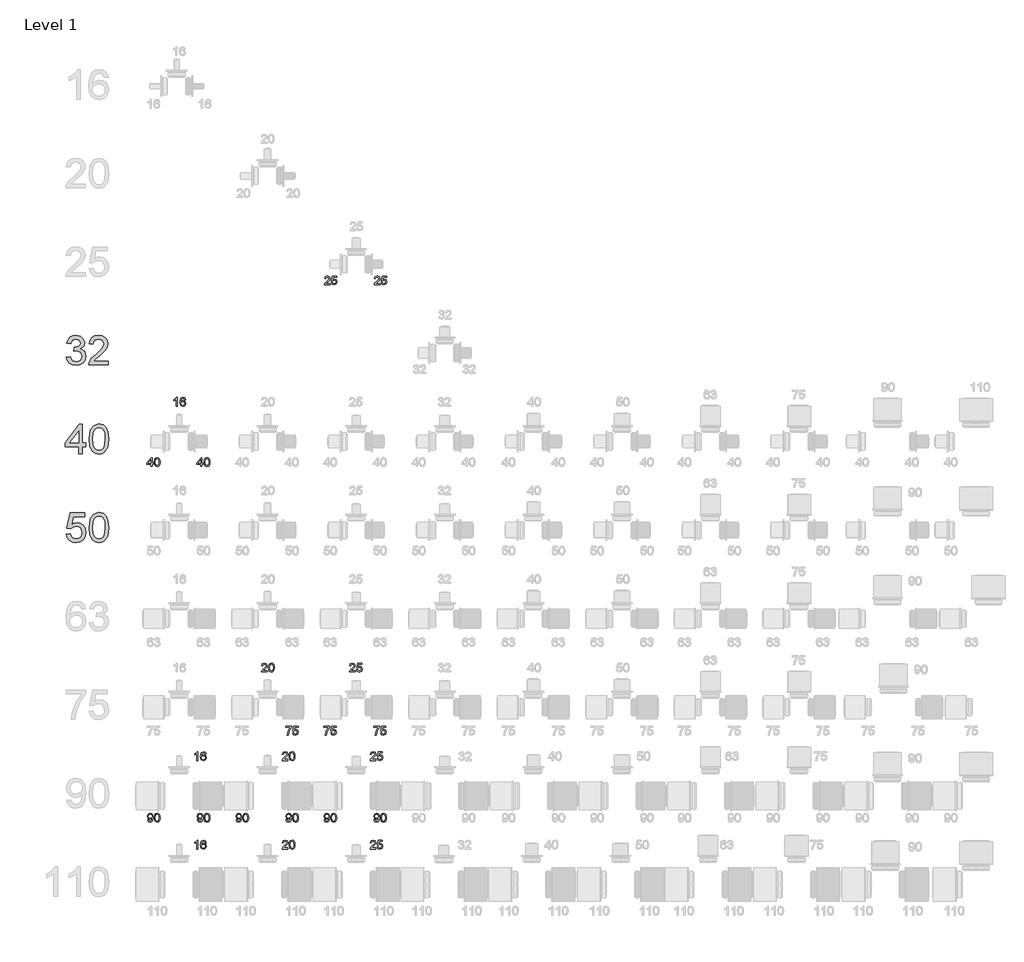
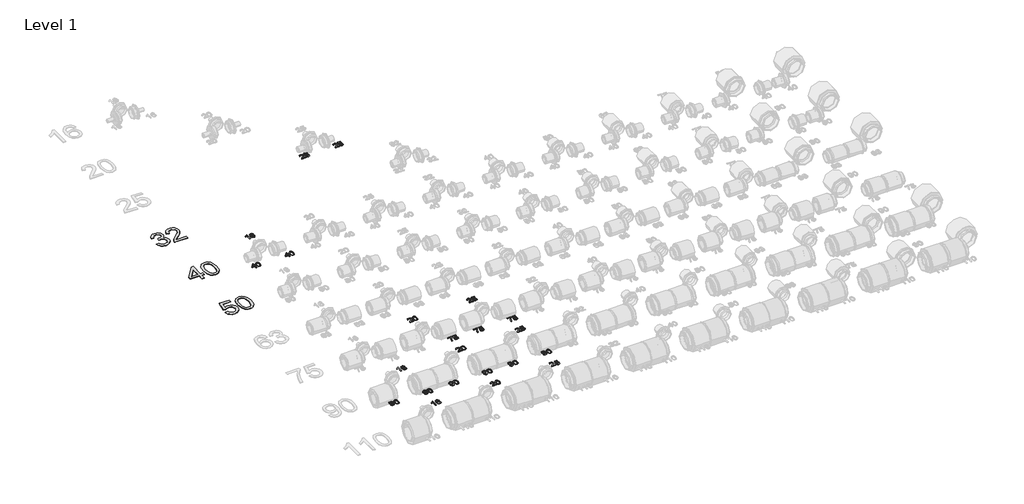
# One storey, part 20 of 58: 25 proxies.
"""IFC4 building model written with IfcOpenShell, lengths in millimetres."""

from ifc_helpers import new_model, si_unit, frame, origin, place, context, project, spatial, polyline, outline, extrude, element, save

model = new_model("IFC4")

# Units and contexts
model_context = context("Model", 3, world=origin())
ifc_project = project(units=[si_unit("LENGTHUNIT", "METRE", prefix="MILLI")], contexts=[model_context])

# Site, building, storey
site = spatial("IfcSite", under=ifc_project)
building = spatial("IfcBuilding", under=site)
storey = spatial("IfcBuildingStorey", under=building, Name="Level 1", Elevation=27.3876384)

# Proxies
placement = place(None, origin())
element("IfcBuildingElementProxy", 1, Name="100mm Arial", ObjectType="100mm Arial", at=placement, inside=storey, context=model_context, shape_type="SweptSolid", body=[
    extrude(outline(polyline([(12884.4814773, 17732.8797554), (12897.0385161, 17734.4493852), (12903.9669603, 17721.2301588), (12916.9286693, 17717.1834569), (12925.537108, 17718.5752771), (12932.1835093, 17722.7507378), (12937.8488921, 17736.5340498), (12932.2325603, 17749.5202843), (12917.9587389, 17754.6583695), (12909.1540964, 17753.2849434), (12910.552048, 17765.8419821), (12912.5631363, 17765.6948293), (12926.8124322, 17769.3000729), (12931.55811, 17773.8740723), (12933.1400025, 17780.3855837), (12928.5537403, 17790.2080329), (12916.7324655, 17794.0953193), (12904.764038, 17790.1712447), (12898.6081459, 17778.3990209), (12886.0511071, 17779.9686507), (12889.7483212, 17791.2442339), (12896.3272775, 17799.6626002), (12905.3281237, 17804.9049186), (12916.2910072, 17806.6523581), (12931.4354826, 17803.2065301), (12942.0304841, 17793.788751), (12945.6970413, 17781.1213477), (12942.2144251, 17769.5453275), (12931.9137292, 17761.2311944), (12945.5989394, 17752.6472812), (12950.4059308, 17736.3133206), (12948.0024351, 17724.0751129), (12940.791948, 17713.8479935), (12929.9087723, 17706.931812), (12916.4872109, 17704.6264181), (12904.347105, 17706.5945868), (12894.4633421, 17712.4990928), (12887.5900802, 17721.5305958), (12884.4814773, 17732.8797554)])), frame((0.0, 0.0, 27.3876384), z_axis=(0.0, 0.0, 1.0), x_axis=(1.0, 0.0, 0.0)), (0.0, 0.0, 1.0), 2.0),
    extrude(outline(polyline([(13025.7481635, 17718.7530867), (13025.7481635, 17706.196048), (12959.8237099, 17706.196048), (12961.1726106, 17714.8535376), (12968.8000306, 17728.1831285), (12984.5208545, 17742.7389928), (13006.2013668, 17763.6592156), (13011.6214948, 17777.8839861), (13006.5079351, 17789.3986925), (12993.1538187, 17794.0953193), (12979.2356165, 17789.5090571), (12973.9503785, 17776.829391), (12961.3933398, 17778.3990209), (12964.4375633, 17790.5452581), (12971.0195853, 17799.4173455), (12980.7960493, 17804.843605), (12993.4235988, 17806.6523581), (13006.1431188, 17804.6412699), (13015.9011887, 17798.6080052), (13022.1091974, 17789.5948963), (13024.1785336, 17778.6442756), (13021.9467162, 17766.7371616), (13014.5277626, 17754.4253775), (12996.538333, 17737.2207629), (12982.0928334, 17725.1419707), (12976.4274506, 17718.7530867), (13025.7481635, 17718.7530867)])), frame((0.0, 0.0, 27.3876384), z_axis=(0.0, 0.0, 1.0), x_axis=(1.0, 0.0, 0.0)), (0.0, 0.0, 1.0), 2.0),
])
element("IfcBuildingElementProxy", 2, Name="100mm Arial", ObjectType="100mm Arial", at=placement, inside=storey, context=model_context, shape_type="SweptSolid", body=[
    extrude(outline(polyline([(12925.2918533, 17406.196048), (12925.2918533, 17429.7404957), (12879.7725878, 17429.7404957), (12879.7725878, 17442.2975344), (12928.431113, 17505.0827283), (12937.8488921, 17505.0827283), (12937.8488921, 17442.2975344), (12950.4059308, 17442.2975344), (12950.4059308, 17429.7404957), (12937.8488921, 17429.7404957), (12937.8488921, 17406.196048), (12925.2918533, 17406.196048)]), holes=[polyline([(12925.2918533, 17442.2975344), (12925.2918533, 17481.0968222), (12895.2236316, 17442.2975344), (12925.2918533, 17442.2975344)])]), frame((0.0, 0.0, 27.3876384), z_axis=(0.0, 0.0, 1.0), x_axis=(1.0, 0.0, 0.0)), (0.0, 0.0, 1.0), 2.0),
    extrude(outline(polyline([(12961.3933398, 17455.6148627), (12965.0844224, 17484.5181247), (12976.0473059, 17501.1831791), (12994.3555665, 17506.6523581), (13009.0217954, 17503.4149966), (13019.150813, 17494.0830566), (13025.0369249, 17479.220624), (13027.3177933, 17455.6148627), (13023.6634988, 17426.8342279), (13012.7374036, 17410.1323853), (13004.5060439, 17406.0029099), (12994.3555665, 17404.6264181), (12981.3080184, 17407.0176511), (12971.39973, 17414.19135), (12963.8949373, 17431.1813668), (12961.3933398, 17455.6148627)]), holes=[polyline([(12973.9503785, 17455.6393881), (12975.4219065, 17435.8871907), (12979.8364905, 17424.4552577), (12986.4093154, 17419.0014071), (12994.3555665, 17417.1834569), (13002.3018176, 17419.0075385), (13008.8746426, 17424.4797831), (13013.2892265, 17435.9178475), (13014.7607545, 17455.6393881), (13013.3382775, 17474.9470615), (13009.0708463, 17486.4678993), (13002.5102841, 17492.1884643), (12994.2084137, 17494.0953193), (12986.3480018, 17492.4153249), (12980.0326942, 17487.3753416), (12975.4709574, 17475.1371339), (12973.9503785, 17455.6393881)])]), frame((0.0, 0.0, 27.3876384), z_axis=(0.0, 0.0, 1.0), x_axis=(1.0, 0.0, 0.0)), (0.0, 0.0, 1.0), 2.0),
])
element("IfcBuildingElementProxy", 3, Name="100mm Arial", ObjectType="100mm Arial", at=placement, inside=storey, context=model_context, shape_type="SweptSolid", body=[
    extrude(outline(polyline([(12884.4814773, 17132.8797554), (12897.0385161, 17134.4493852), (12903.3660864, 17121.5122017), (12916.4872109, 17117.1834569), (12925.488057, 17118.6887074), (12932.2325603, 17123.2044589), (12936.4448091, 17130.2095452), (12937.8488921, 17139.1828002), (12932.5881795, 17154.0942837), (12925.981632, 17158.196168), (12916.6834146, 17159.5634627), (12905.6592175, 17157.3806962), (12898.6081459, 17151.7153135), (12886.0511071, 17153.2849434), (12897.0385161, 17205.0827283), (12945.6970413, 17205.0827283), (12945.6970413, 17192.5256895), (12907.1920591, 17192.5256895), (12901.820982, 17164.8609635), (12910.7911713, 17170.305617), (12920.1905563, 17172.1205015), (12931.9229263, 17169.87029), (12941.6626021, 17163.1196554), (12948.2200987, 17152.8312222), (12950.4059308, 17139.9676151), (12948.4377622, 17127.4105764), (12942.5332561, 17116.6684221), (12931.2270162, 17107.6369191), (12916.43816, 17104.6264181), (12904.1049161, 17106.5608643), (12894.2794011, 17112.3642028), (12887.5440949, 17121.3619832), (12884.4814773, 17132.8797554)])), frame((0.0, 0.0, 27.3876384), z_axis=(0.0, 0.0, 1.0), x_axis=(1.0, 0.0, 0.0)), (0.0, 0.0, 1.0), 2.0),
    extrude(outline(polyline([(12961.3933398, 17155.6148627), (12965.0844224, 17184.5181247), (12976.0473059, 17201.1831791), (12994.3555665, 17206.6523581), (13009.0217954, 17203.4149966), (13019.150813, 17194.0830566), (13025.0369249, 17179.220624), (13027.3177933, 17155.6148627), (13023.6634988, 17126.8342279), (13012.7374036, 17110.1323853), (13004.5060439, 17106.0029099), (12994.3555665, 17104.6264181), (12981.3080184, 17107.0176511), (12971.39973, 17114.19135), (12963.8949373, 17131.1813668), (12961.3933398, 17155.6148627)]), holes=[polyline([(12973.9503785, 17155.6393881), (12975.4219065, 17135.8871907), (12979.8364905, 17124.4552577), (12986.4093154, 17119.0014071), (12994.3555665, 17117.1834569), (13002.3018176, 17119.0075385), (13008.8746426, 17124.4797831), (13013.2892265, 17135.9178475), (13014.7607545, 17155.6393881), (13013.3382775, 17174.9470615), (13009.0708463, 17186.4678993), (13002.5102841, 17192.1884643), (12994.2084137, 17194.0953193), (12986.3480018, 17192.4153249), (12980.0326942, 17187.3753416), (12975.4709574, 17175.1371339), (12973.9503785, 17155.6393881)])]), frame((0.0, 0.0, 27.3876384), z_axis=(0.0, 0.0, 1.0), x_axis=(1.0, 0.0, 0.0)), (0.0, 0.0, 1.0), 2.0),
])
element("IfcBuildingElementProxy", 4, Name="30mm Arial", ObjectType="30mm Arial", at=placement, inside=storey, context=model_context, shape_type="SweptSolid", body=[
    extrude(outline(polyline([(13777.8418771, 17981.3459656), (13777.8418771, 17977.5788539), (13758.0645411, 17977.5788539), (13758.4692113, 17980.1761008), (13760.7574373, 17984.1749781), (13765.4736845, 17988.5417374), (13771.9778381, 17994.8178042), (13773.6038765, 17999.0852354), (13772.0698086, 18002.5396473), (13768.0635737, 18003.9486353), (13763.8881131, 18002.5727567), (13762.3025417, 17998.7688569), (13758.53543, 17999.2397458), (13761.4233037, 18005.5452432), (13768.1445077, 18007.715747), (13774.8877847, 18005.3024411), (13777.3709882, 17999.3133222), (13776.7014429, 17995.741188), (13774.4757569, 17992.0476528), (13769.078928, 17986.8862684), (13764.7452781, 17983.2626308), (13763.0456633, 17981.3459656), (13777.8418771, 17981.3459656)])), frame((0.0, 0.0, 27.3876384), z_axis=(0.0, 0.0, 1.0), x_axis=(1.0, 0.0, 0.0)), (0.0, 0.0, 1.0), 2.0),
    extrude(outline(polyline([(13781.6089888, 17985.5839661), (13785.3761004, 17986.0548551), (13787.2743715, 17982.1737001), (13791.2107088, 17980.8750766), (13795.9343137, 17982.6813772), (13797.6192132, 17987.4748796), (13796.0409994, 17991.9483247), (13791.26957, 17993.5890784), (13787.9623108, 17992.9342484), (13785.8469893, 17991.2346336), (13782.0798777, 17991.7055225), (13785.3761004, 18007.244858), (13799.973658, 18007.244858), (13799.973658, 18003.4777464), (13788.4221633, 18003.4777464), (13786.8108402, 17995.1783286), (13792.3217125, 17997.35619), (13798.7633262, 17994.6559361), (13801.3863248, 17987.7103241), (13799.0245224, 17980.7205662), (13791.1959936, 17977.107965), (13784.5483659, 17979.4293004), (13781.6089888, 17985.5839661)])), frame((0.0, 0.0, 27.3876384), z_axis=(0.0, 0.0, 1.0), x_axis=(1.0, 0.0, 0.0)), (0.0, 0.0, 1.0), 2.0),
])
element("IfcBuildingElementProxy", 5, Name="30mm Arial", ObjectType="30mm Arial", at=placement, inside=storey, context=model_context, shape_type="SweptSolid", body=[
    extrude(outline(polyline([(13946.5918771, 17981.3459656), (13946.5918771, 17977.5788539), (13926.8145411, 17977.5788539), (13927.2192113, 17980.1761008), (13929.5074373, 17984.1749781), (13934.2236845, 17988.5417374), (13940.7278381, 17994.8178042), (13942.3538765, 17999.0852354), (13940.8198086, 18002.5396473), (13936.8135737, 18003.9486353), (13932.6381131, 18002.5727567), (13931.0525417, 17998.7688569), (13927.28543, 17999.2397458), (13930.1733037, 18005.5452432), (13936.8945077, 18007.715747), (13943.6377847, 18005.3024411), (13946.1209882, 17999.3133222), (13945.4514429, 17995.741188), (13943.2257569, 17992.0476528), (13937.828928, 17986.8862684), (13933.4952781, 17983.2626308), (13931.7956633, 17981.3459656), (13946.5918771, 17981.3459656)])), frame((0.0, 0.0, 27.3876384), z_axis=(0.0, 0.0, 1.0), x_axis=(1.0, 0.0, 0.0)), (0.0, 0.0, 1.0), 2.0),
    extrude(outline(polyline([(13950.3589888, 17985.5839661), (13954.1261004, 17986.0548551), (13956.0243715, 17982.1737001), (13959.9607088, 17980.8750766), (13964.6843137, 17982.6813772), (13966.3692132, 17987.4748796), (13964.7909994, 17991.9483247), (13960.01957, 17993.5890784), (13956.7123108, 17992.9342484), (13954.5969893, 17991.2346336), (13950.8298777, 17991.7055225), (13954.1261004, 18007.244858), (13968.723658, 18007.244858), (13968.723658, 18003.4777464), (13957.1721633, 18003.4777464), (13955.5608402, 17995.1783286), (13961.0717125, 17997.35619), (13967.5133262, 17994.6559361), (13970.1363248, 17987.7103241), (13967.7745224, 17980.7205662), (13959.9459936, 17977.107965), (13953.2983659, 17979.4293004), (13950.3589888, 17985.5839661)])), frame((0.0, 0.0, 27.3876384), z_axis=(0.0, 0.0, 1.0), x_axis=(1.0, 0.0, 0.0)), (0.0, 0.0, 1.0), 2.0),
])
element("IfcBuildingElementProxy", 6, Name="30mm Arial", ObjectType="30mm Arial", at=placement, inside=storey, context=model_context, shape_type="SweptSolid", body=[
    extrude(outline(polyline([(13170.7785428, 17362.5788539), (13170.7785428, 17369.6421882), (13157.1227632, 17369.6421882), (13157.1227632, 17373.4092999), (13171.7203207, 17392.244858), (13174.5456545, 17392.244858), (13174.5456545, 17373.4092999), (13178.3127661, 17373.4092999), (13178.3127661, 17369.6421882), (13174.5456545, 17369.6421882), (13174.5456545, 17362.5788539), (13170.7785428, 17362.5788539)]), holes=[polyline([(13170.7785428, 17373.4092999), (13170.7785428, 17385.0490862), (13161.7580763, 17373.4092999), (13170.7785428, 17373.4092999)])]), frame((0.0, 0.0, 27.3876384), z_axis=(0.0, 0.0, 1.0), x_axis=(1.0, 0.0, 0.0)), (0.0, 0.0, 1.0), 2.0),
    extrude(outline(polyline([(13181.6089888, 17377.4044983), (13182.7163136, 17386.075477), (13186.0051786, 17391.0749933), (13191.4976568, 17392.715747), (13195.8975255, 17391.7445385), (13198.9362307, 17388.9449565), (13200.7020643, 17384.4862267), (13201.3863248, 17377.4044983), (13200.2900365, 17368.7703079), (13197.0122079, 17363.7597551), (13191.4976568, 17362.107965), (13184.6109058, 17364.9774445), (13181.6089888, 17377.4044983)]), holes=[polyline([(13185.3761004, 17377.411856), (13187.141934, 17368.0566168), (13191.4976568, 17365.8750766), (13195.8533796, 17368.0639745), (13197.6192132, 17377.411856), (13195.9122407, 17386.6604093), (13191.453511, 17388.9486353), (13187.2007951, 17386.932642), (13185.3761004, 17377.411856)])]), frame((0.0, 0.0, 27.3876384), z_axis=(0.0, 0.0, 1.0), x_axis=(1.0, 0.0, 0.0)), (0.0, 0.0, 1.0), 2.0),
])
element("IfcBuildingElementProxy", 7, Name="30mm Arial", ObjectType="30mm Arial", at=placement, inside=storey, context=model_context, shape_type="SweptSolid", body=[
    extrude(outline(polyline([(13339.5285428, 17362.5788539), (13339.5285428, 17369.6421882), (13325.8727632, 17369.6421882), (13325.8727632, 17373.4092999), (13340.4703207, 17392.244858), (13343.2956545, 17392.244858), (13343.2956545, 17373.4092999), (13347.0627661, 17373.4092999), (13347.0627661, 17369.6421882), (13343.2956545, 17369.6421882), (13343.2956545, 17362.5788539), (13339.5285428, 17362.5788539)]), holes=[polyline([(13339.5285428, 17373.4092999), (13339.5285428, 17385.0490862), (13330.5080763, 17373.4092999), (13339.5285428, 17373.4092999)])]), frame((0.0, 0.0, 27.3876384), z_axis=(0.0, 0.0, 1.0), x_axis=(1.0, 0.0, 0.0)), (0.0, 0.0, 1.0), 2.0),
    extrude(outline(polyline([(13350.3589888, 17377.4044983), (13351.4663136, 17386.075477), (13354.7551786, 17391.0749933), (13360.2476568, 17392.715747), (13364.6475255, 17391.7445385), (13367.6862307, 17388.9449565), (13369.4520643, 17384.4862267), (13370.1363248, 17377.4044983), (13369.0400365, 17368.7703079), (13365.7622079, 17363.7597551), (13360.2476568, 17362.107965), (13353.3609058, 17364.9774445), (13350.3589888, 17377.4044983)]), holes=[polyline([(13354.1261004, 17377.411856), (13355.891934, 17368.0566168), (13360.2476568, 17365.8750766), (13364.6033796, 17368.0639745), (13366.3692132, 17377.411856), (13364.6622407, 17386.6604093), (13360.203511, 17388.9486353), (13355.9507951, 17386.932642), (13354.1261004, 17377.411856)])]), frame((0.0, 0.0, 27.3876384), z_axis=(0.0, 0.0, 1.0), x_axis=(1.0, 0.0, 0.0)), (0.0, 0.0, 1.0), 2.0),
])
element("IfcBuildingElementProxy", 8, Name="30mm Arial", ObjectType="30mm Arial", at=placement, inside=storey, context=model_context, shape_type="SweptSolid", body=[
    extrude(outline(polyline([(13259.5902834, 17566.3974945), (13255.8231718, 17566.3974945), (13255.8231718, 17589.8830811), (13252.2547165, 17587.3410165), (13248.2889486, 17585.4390666), (13248.2889486, 17589.0001643), (13253.8108573, 17592.5244738), (13257.1622623, 17596.5343875), (13259.5902834, 17596.5343875), (13259.5902834, 17566.3974945)])), frame((0.0, 0.0, 27.3876384), z_axis=(0.0, 0.0, 1.0), x_axis=(1.0, 0.0, 0.0)), (0.0, 0.0, 1.0), 2.0),
    extrude(outline(polyline([(13287.8436207, 17588.5292753), (13284.076509, 17588.0583864), (13282.6491269, 17591.2000986), (13278.8746576, 17592.7672759), (13275.475428, 17591.8549286), (13272.9039328, 17588.4299472), (13271.8333962, 17581.7161008), (13275.1553707, 17584.7216967), (13279.2719702, 17585.7039416), (13285.6731169, 17583.018403), (13288.3145096, 17576.0801486), (13287.0710685, 17570.881976), (13283.6497659, 17567.2031561), (13278.7127896, 17565.9266055), (13271.0350923, 17569.3111199), (13268.0662846, 17580.465302), (13271.3625073, 17593.0983697), (13279.1101021, 17596.5343875), (13285.0624328, 17594.4080296), (13287.8436207, 17588.5292753)]), holes=[polyline([(13271.8333962, 17576.1390097), (13272.7052766, 17572.8758964), (13275.0229331, 17570.5067364), (13278.418484, 17569.6937172), (13282.8588196, 17571.3786167), (13284.547398, 17575.9550687), (13282.8808926, 17580.3365433), (13278.2639735, 17581.93683), (13273.7059156, 17580.3365433), (13271.8333962, 17576.1390097)])]), frame((0.0, 0.0, 27.3876384), z_axis=(0.0, 0.0, 1.0), x_axis=(1.0, 0.0, 0.0)), (0.0, 0.0, 1.0), 2.0),
])
element("IfcBuildingElementProxy", 9, Name="30mm Arial", ObjectType="30mm Arial", at=placement, inside=storey, context=model_context, shape_type="SweptSolid", body=[
    extrude(outline(polyline([(13627.28543, 16478.4777464), (13627.28543, 16482.244858), (13647.0627661, 16482.244858), (13647.0627661, 16479.1987951), (13641.4525657, 16471.0943547), (13637.1593828, 16460.7679071), (13635.7614312, 16452.5788539), (13631.9943196, 16452.5788539), (13633.4915993, 16461.076928), (13637.6008412, 16470.6823269), (13643.2956545, 16478.4777464), (13627.28543, 16478.4777464)])), frame((0.0, 0.0, 27.3876384), z_axis=(0.0, 0.0, 1.0), x_axis=(1.0, 0.0, 0.0)), (0.0, 0.0, 1.0), 2.0),
    extrude(outline(polyline([(13650.3589888, 16460.5839661), (13654.1261004, 16461.0548551), (13656.0243715, 16457.1737001), (13659.9607088, 16455.8750766), (13664.6843137, 16457.6813772), (13666.3692132, 16462.4748796), (13664.7909994, 16466.9483247), (13660.01957, 16468.5890784), (13656.7123108, 16467.9342484), (13654.5969893, 16466.2346336), (13650.8298777, 16466.7055225), (13654.1261004, 16482.244858), (13668.723658, 16482.244858), (13668.723658, 16478.4777464), (13657.1721633, 16478.4777464), (13655.5608402, 16470.1783286), (13661.0717125, 16472.35619), (13667.5133262, 16469.6559361), (13670.1363248, 16462.7103241), (13667.7745224, 16455.7205662), (13659.9459936, 16452.107965), (13653.2983659, 16454.4293004), (13650.3589888, 16460.5839661)])), frame((0.0, 0.0, 27.3876384), z_axis=(0.0, 0.0, 1.0), x_axis=(1.0, 0.0, 0.0)), (0.0, 0.0, 1.0), 2.0),
])
element("IfcBuildingElementProxy", 10, Name="30mm Arial", ObjectType="30mm Arial", at=placement, inside=storey, context=model_context, shape_type="SweptSolid", body=[
    extrude(outline(polyline([(13564.7700619, 16670.1646061), (13564.7700619, 16666.3974945), (13544.9927259, 16666.3974945), (13545.3973961, 16668.9947414), (13547.6856221, 16672.9936187), (13552.4018693, 16677.3603779), (13558.9060229, 16683.6364448), (13560.5320614, 16687.9038759), (13558.9979934, 16691.3582879), (13554.9917585, 16692.7672759), (13550.8162979, 16691.3913972), (13549.2307265, 16687.5874974), (13545.4636148, 16688.0583864), (13548.3514885, 16694.3638838), (13555.0726925, 16696.5343875), (13561.8159695, 16694.1210816), (13564.299173, 16688.1319628), (13563.6296278, 16684.5598286), (13561.4039417, 16680.8662934), (13556.0071128, 16675.704909), (13551.6734629, 16672.0812713), (13549.9738481, 16670.1646061), (13564.7700619, 16670.1646061)])), frame((0.0, 0.0, 27.3876384), z_axis=(0.0, 0.0, 1.0), x_axis=(1.0, 0.0, 0.0)), (0.0, 0.0, 1.0), 2.0),
    extrude(outline(polyline([(13568.5371736, 16681.2231389), (13569.6444984, 16689.8941175), (13572.9333634, 16694.8936338), (13578.4258416, 16696.5343875), (13582.8257103, 16695.5631791), (13585.8644155, 16692.7635971), (13587.6302491, 16688.3048673), (13588.3145096, 16681.2231389), (13587.2182213, 16672.5889485), (13583.9403927, 16667.5783957), (13578.4258416, 16665.9266055), (13571.5390906, 16668.7960851), (13568.5371736, 16681.2231389)]), holes=[polyline([(13572.3042852, 16681.2304965), (13574.0701188, 16671.8752574), (13578.4258416, 16669.6937172), (13582.7815644, 16671.882615), (13584.547398, 16681.2304965), (13582.8404255, 16690.4790499), (13578.3816958, 16692.7672759), (13574.1289799, 16690.7512826), (13572.3042852, 16681.2304965)])]), frame((0.0, 0.0, 27.3876384), z_axis=(0.0, 0.0, 1.0), x_axis=(1.0, 0.0, 0.0)), (0.0, 0.0, 1.0), 2.0),
])
element("IfcBuildingElementProxy", 11, Name="30mm Arial", ObjectType="30mm Arial", at=placement, inside=storey, context=model_context, shape_type="SweptSolid", body=[
    extrude(outline(polyline([(13756.53543, 16478.4777464), (13756.53543, 16482.244858), (13776.3127661, 16482.244858), (13776.3127661, 16479.1987951), (13770.7025657, 16471.0943547), (13766.4093828, 16460.7679071), (13765.0114312, 16452.5788539), (13761.2443196, 16452.5788539), (13762.7415993, 16461.076928), (13766.8508412, 16470.6823269), (13772.5456545, 16478.4777464), (13756.53543, 16478.4777464)])), frame((0.0, 0.0, 27.3876384), z_axis=(0.0, 0.0, 1.0), x_axis=(1.0, 0.0, 0.0)), (0.0, 0.0, 1.0), 2.0),
    extrude(outline(polyline([(13779.6089888, 16460.5839661), (13783.3761004, 16461.0548551), (13785.2743715, 16457.1737001), (13789.2107088, 16455.8750766), (13793.9343137, 16457.6813772), (13795.6192132, 16462.4748796), (13794.0409994, 16466.9483247), (13789.26957, 16468.5890784), (13785.9623108, 16467.9342484), (13783.8469893, 16466.2346336), (13780.0798777, 16466.7055225), (13783.3761004, 16482.244858), (13797.973658, 16482.244858), (13797.973658, 16478.4777464), (13786.4221633, 16478.4777464), (13784.8108402, 16470.1783286), (13790.3217125, 16472.35619), (13796.7633262, 16469.6559361), (13799.3863248, 16462.7103241), (13797.0245224, 16455.7205662), (13789.1959936, 16452.107965), (13782.5483659, 16454.4293004), (13779.6089888, 16460.5839661)])), frame((0.0, 0.0, 27.3876384), z_axis=(0.0, 0.0, 1.0), x_axis=(1.0, 0.0, 0.0)), (0.0, 0.0, 1.0), 2.0),
])
element("IfcBuildingElementProxy", 12, Name="30mm Arial", ObjectType="30mm Arial", at=placement, inside=storey, context=model_context, shape_type="SweptSolid", body=[
    extrude(outline(polyline([(13925.28543, 16478.4777464), (13925.28543, 16482.244858), (13945.0627661, 16482.244858), (13945.0627661, 16479.1987951), (13939.4525657, 16471.0943547), (13935.1593828, 16460.7679071), (13933.7614312, 16452.5788539), (13929.9943196, 16452.5788539), (13931.4915993, 16461.076928), (13935.6008412, 16470.6823269), (13941.2956545, 16478.4777464), (13925.28543, 16478.4777464)])), frame((0.0, 0.0, 27.3876384), z_axis=(0.0, 0.0, 1.0), x_axis=(1.0, 0.0, 0.0)), (0.0, 0.0, 1.0), 2.0),
    extrude(outline(polyline([(13948.3589888, 16460.5839661), (13952.1261004, 16461.0548551), (13954.0243715, 16457.1737001), (13957.9607088, 16455.8750766), (13962.6843137, 16457.6813772), (13964.3692132, 16462.4748796), (13962.7909994, 16466.9483247), (13958.01957, 16468.5890784), (13954.7123108, 16467.9342484), (13952.5969893, 16466.2346336), (13948.8298777, 16466.7055225), (13952.1261004, 16482.244858), (13966.723658, 16482.244858), (13966.723658, 16478.4777464), (13955.1721633, 16478.4777464), (13953.5608402, 16470.1783286), (13959.0717125, 16472.35619), (13965.5133262, 16469.6559361), (13968.1363248, 16462.7103241), (13965.7745224, 16455.7205662), (13957.9459936, 16452.107965), (13951.2983659, 16454.4293004), (13948.3589888, 16460.5839661)])), frame((0.0, 0.0, 27.3876384), z_axis=(0.0, 0.0, 1.0), x_axis=(1.0, 0.0, 0.0)), (0.0, 0.0, 1.0), 2.0),
])
element("IfcBuildingElementProxy", 13, Name="30mm Arial", ObjectType="30mm Arial", at=placement, inside=storey, context=model_context, shape_type="SweptSolid", body=[
    extrude(outline(polyline([(13862.7700619, 16670.1646061), (13862.7700619, 16666.3974945), (13842.9927259, 16666.3974945), (13843.3973961, 16668.9947414), (13845.6856221, 16672.9936187), (13850.4018693, 16677.3603779), (13856.9060229, 16683.6364448), (13858.5320614, 16687.9038759), (13856.9979934, 16691.3582879), (13852.9917585, 16692.7672759), (13848.8162979, 16691.3913972), (13847.2307265, 16687.5874974), (13843.4636148, 16688.0583864), (13846.3514885, 16694.3638838), (13853.0726925, 16696.5343875), (13859.8159695, 16694.1210816), (13862.299173, 16688.1319628), (13861.6296278, 16684.5598286), (13859.4039417, 16680.8662934), (13854.0071128, 16675.704909), (13849.6734629, 16672.0812713), (13847.9738481, 16670.1646061), (13862.7700619, 16670.1646061)])), frame((0.0, 0.0, 27.3876384), z_axis=(0.0, 0.0, 1.0), x_axis=(1.0, 0.0, 0.0)), (0.0, 0.0, 1.0), 2.0),
    extrude(outline(polyline([(13866.5371736, 16674.4026067), (13870.3042852, 16674.8734957), (13872.2025563, 16670.9923406), (13876.1388936, 16669.6937172), (13880.8624985, 16671.5000178), (13882.547398, 16676.2935202), (13880.9691842, 16680.7669652), (13876.1977548, 16682.4077189), (13872.8904956, 16681.752889), (13870.7751742, 16680.0532742), (13867.0080625, 16680.5241631), (13870.3042852, 16696.0634986), (13884.9018428, 16696.0634986), (13884.9018428, 16692.296387), (13873.3503481, 16692.296387), (13871.739025, 16683.9969691), (13877.2498973, 16686.1748306), (13883.691511, 16683.4745767), (13886.3145096, 16676.5289646), (13883.9527072, 16669.5392067), (13876.1241784, 16665.9266055), (13869.4765507, 16668.2479409), (13866.5371736, 16674.4026067)])), frame((0.0, 0.0, 27.3876384), z_axis=(0.0, 0.0, 1.0), x_axis=(1.0, 0.0, 0.0)), (0.0, 0.0, 1.0), 2.0),
])
element("IfcBuildingElementProxy", 14, Name="30mm Arial", ObjectType="30mm Arial", at=placement, inside=storey, context=model_context, shape_type="SweptSolid", body=[
    extrude(outline(polyline([(13159.006319, 16165.1130772), (13162.7734306, 16165.5839661), (13164.4656878, 16161.9897591), (13167.6736188, 16160.8750766), (13170.7233605, 16161.5924465), (13172.7908573, 16163.5091117), (13174.023262, 16166.7832615), (13174.5677274, 16171.1536996), (13171.5327009, 16169.0346993), (13167.4013861, 16167.9384109), (13161.1069252, 16170.6165918), (13158.53543, 16177.6725685), (13161.232005, 16184.956632), (13167.9899973, 16187.715747), (13173.3573956, 16186.141212), (13177.0509308, 16181.6530517), (13178.3127661, 16173.2211964), (13177.0546097, 16164.0719711), (13173.3132498, 16158.8885138), (13167.4970354, 16157.107965), (13161.7065728, 16159.2085712), (13159.006319, 16165.1130772)]), holes=[polyline([(13174.5456545, 16177.7608602), (13172.919616, 16182.2784511), (13168.6006814, 16183.9486353), (13164.0683752, 16182.1496924), (13162.3025417, 16177.4886275), (13163.9727259, 16173.3131669), (13168.4976745, 16171.7055225), (13172.8423608, 16173.3131669), (13174.5456545, 16177.7608602)])]), frame((0.0, 0.0, 27.3876384), z_axis=(0.0, 0.0, 1.0), x_axis=(1.0, 0.0, 0.0)), (0.0, 0.0, 1.0), 2.0),
    extrude(outline(polyline([(13181.6089888, 16172.4044983), (13182.7163136, 16181.075477), (13186.0051786, 16186.0749933), (13191.4976568, 16187.715747), (13195.8975255, 16186.7445385), (13198.9362307, 16183.9449565), (13200.7020643, 16179.4862267), (13201.3863248, 16172.4044983), (13200.2900365, 16163.7703079), (13197.0122079, 16158.7597551), (13191.4976568, 16157.107965), (13184.6109058, 16159.9774445), (13181.6089888, 16172.4044983)]), holes=[polyline([(13185.3761004, 16172.411856), (13187.141934, 16163.0566168), (13191.4976568, 16160.8750766), (13195.8533796, 16163.0639745), (13197.6192132, 16172.411856), (13195.9122407, 16181.6604093), (13191.453511, 16183.9486353), (13187.2007951, 16181.932642), (13185.3761004, 16172.411856)])]), frame((0.0, 0.0, 27.3876384), z_axis=(0.0, 0.0, 1.0), x_axis=(1.0, 0.0, 0.0)), (0.0, 0.0, 1.0), 2.0),
])
element("IfcBuildingElementProxy", 15, Name="30mm Arial", ObjectType="30mm Arial", at=placement, inside=storey, context=model_context, shape_type="SweptSolid", body=[
    extrude(outline(polyline([(13327.756319, 16165.1130772), (13331.5234306, 16165.5839661), (13333.2156878, 16161.9897591), (13336.4236188, 16160.8750766), (13339.4733605, 16161.5924465), (13341.5408573, 16163.5091117), (13342.773262, 16166.7832615), (13343.3177274, 16171.1536996), (13340.2827009, 16169.0346993), (13336.1513861, 16167.9384109), (13329.8569252, 16170.6165918), (13327.28543, 16177.6725685), (13329.982005, 16184.956632), (13336.7399973, 16187.715747), (13342.1073956, 16186.141212), (13345.8009308, 16181.6530517), (13347.0627661, 16173.2211964), (13345.8046097, 16164.0719711), (13342.0632498, 16158.8885138), (13336.2470354, 16157.107965), (13330.4565728, 16159.2085712), (13327.756319, 16165.1130772)]), holes=[polyline([(13343.2956545, 16177.7608602), (13341.669616, 16182.2784511), (13337.3506814, 16183.9486353), (13332.8183752, 16182.1496924), (13331.0525417, 16177.4886275), (13332.7227259, 16173.3131669), (13337.2476745, 16171.7055225), (13341.5923608, 16173.3131669), (13343.2956545, 16177.7608602)])]), frame((0.0, 0.0, 27.3876384), z_axis=(0.0, 0.0, 1.0), x_axis=(1.0, 0.0, 0.0)), (0.0, 0.0, 1.0), 2.0),
    extrude(outline(polyline([(13350.3589888, 16172.4044983), (13351.4663136, 16181.075477), (13354.7551786, 16186.0749933), (13360.2476568, 16187.715747), (13364.6475255, 16186.7445385), (13367.6862307, 16183.9449565), (13369.4520643, 16179.4862267), (13370.1363248, 16172.4044983), (13369.0400365, 16163.7703079), (13365.7622079, 16158.7597551), (13360.2476568, 16157.107965), (13353.3609058, 16159.9774445), (13350.3589888, 16172.4044983)]), holes=[polyline([(13354.1261004, 16172.411856), (13355.891934, 16163.0566168), (13360.2476568, 16160.8750766), (13364.6033796, 16163.0639745), (13366.3692132, 16172.411856), (13364.6622407, 16181.6604093), (13360.203511, 16183.9486353), (13355.9507951, 16181.932642), (13354.1261004, 16172.411856)])]), frame((0.0, 0.0, 27.3876384), z_axis=(0.0, 0.0, 1.0), x_axis=(1.0, 0.0, 0.0)), (0.0, 0.0, 1.0), 2.0),
])
element("IfcBuildingElementProxy", 16, Name="30mm Arial", ObjectType="30mm Arial", at=placement, inside=storey, context=model_context, shape_type="SweptSolid", body=[
    extrude(outline(polyline([(13329.5902834, 16366.3974945), (13325.8231718, 16366.3974945), (13325.8231718, 16389.8830811), (13322.2547165, 16387.3410165), (13318.2889486, 16385.4390666), (13318.2889486, 16389.0001643), (13323.8108573, 16392.5244738), (13327.1622623, 16396.5343875), (13329.5902834, 16396.5343875), (13329.5902834, 16366.3974945)])), frame((0.0, 0.0, 27.3876384), z_axis=(0.0, 0.0, 1.0), x_axis=(1.0, 0.0, 0.0)), (0.0, 0.0, 1.0), 2.0),
    extrude(outline(polyline([(13357.8436207, 16388.5292753), (13354.076509, 16388.0583864), (13352.6491269, 16391.2000986), (13348.8746576, 16392.7672759), (13345.475428, 16391.8549286), (13342.9039328, 16388.4299472), (13341.8333962, 16381.7161008), (13345.1553707, 16384.7216967), (13349.2719702, 16385.7039416), (13355.6731169, 16383.018403), (13358.3145096, 16376.0801486), (13357.0710685, 16370.881976), (13353.6497659, 16367.2031561), (13348.7127896, 16365.9266055), (13341.0350923, 16369.3111199), (13338.0662846, 16380.465302), (13341.3625073, 16393.0983697), (13349.1101021, 16396.5343875), (13355.0624328, 16394.4080296), (13357.8436207, 16388.5292753)]), holes=[polyline([(13341.8333962, 16376.1390097), (13342.7052766, 16372.8758964), (13345.0229331, 16370.5067364), (13348.418484, 16369.6937172), (13352.8588196, 16371.3786167), (13354.547398, 16375.9550687), (13352.8808926, 16380.3365433), (13348.2639735, 16381.93683), (13343.7059156, 16380.3365433), (13341.8333962, 16376.1390097)])]), frame((0.0, 0.0, 27.3876384), z_axis=(0.0, 0.0, 1.0), x_axis=(1.0, 0.0, 0.0)), (0.0, 0.0, 1.0), 2.0),
])
element("IfcBuildingElementProxy", 17, Name="30mm Arial", ObjectType="30mm Arial", at=placement, inside=storey, context=model_context, shape_type="SweptSolid", body=[
    extrude(outline(polyline([(13459.006319, 16165.1130772), (13462.7734306, 16165.5839661), (13464.4656878, 16161.9897591), (13467.6736188, 16160.8750766), (13470.7233605, 16161.5924465), (13472.7908573, 16163.5091117), (13474.023262, 16166.7832615), (13474.5677274, 16171.1536996), (13471.5327009, 16169.0346993), (13467.4013861, 16167.9384109), (13461.1069252, 16170.6165918), (13458.53543, 16177.6725685), (13461.232005, 16184.956632), (13467.9899973, 16187.715747), (13473.3573956, 16186.141212), (13477.0509308, 16181.6530517), (13478.3127661, 16173.2211964), (13477.0546097, 16164.0719711), (13473.3132498, 16158.8885138), (13467.4970354, 16157.107965), (13461.7065728, 16159.2085712), (13459.006319, 16165.1130772)]), holes=[polyline([(13474.5456545, 16177.7608602), (13472.919616, 16182.2784511), (13468.6006814, 16183.9486353), (13464.0683752, 16182.1496924), (13462.3025417, 16177.4886275), (13463.9727259, 16173.3131669), (13468.4976745, 16171.7055225), (13472.8423608, 16173.3131669), (13474.5456545, 16177.7608602)])]), frame((0.0, 0.0, 27.3876384), z_axis=(0.0, 0.0, 1.0), x_axis=(1.0, 0.0, 0.0)), (0.0, 0.0, 1.0), 2.0),
    extrude(outline(polyline([(13481.6089888, 16172.4044983), (13482.7163136, 16181.075477), (13486.0051786, 16186.0749933), (13491.4976568, 16187.715747), (13495.8975255, 16186.7445385), (13498.9362307, 16183.9449565), (13500.7020643, 16179.4862267), (13501.3863248, 16172.4044983), (13500.2900365, 16163.7703079), (13497.0122079, 16158.7597551), (13491.4976568, 16157.107965), (13484.6109058, 16159.9774445), (13481.6089888, 16172.4044983)]), holes=[polyline([(13485.3761004, 16172.411856), (13487.141934, 16163.0566168), (13491.4976568, 16160.8750766), (13495.8533796, 16163.0639745), (13497.6192132, 16172.411856), (13495.9122407, 16181.6604093), (13491.453511, 16183.9486353), (13487.2007951, 16181.932642), (13485.3761004, 16172.411856)])]), frame((0.0, 0.0, 27.3876384), z_axis=(0.0, 0.0, 1.0), x_axis=(1.0, 0.0, 0.0)), (0.0, 0.0, 1.0), 2.0),
])
element("IfcBuildingElementProxy", 18, Name="30mm Arial", ObjectType="30mm Arial", at=placement, inside=storey, context=model_context, shape_type="SweptSolid", body=[
    extrude(outline(polyline([(13627.756319, 16165.1130772), (13631.5234306, 16165.5839661), (13633.2156878, 16161.9897591), (13636.4236188, 16160.8750766), (13639.4733605, 16161.5924465), (13641.5408573, 16163.5091117), (13642.773262, 16166.7832615), (13643.3177274, 16171.1536996), (13640.2827009, 16169.0346993), (13636.1513861, 16167.9384109), (13629.8569252, 16170.6165918), (13627.28543, 16177.6725685), (13629.982005, 16184.956632), (13636.7399973, 16187.715747), (13642.1073956, 16186.141212), (13645.8009308, 16181.6530517), (13647.0627661, 16173.2211964), (13645.8046097, 16164.0719711), (13642.0632498, 16158.8885138), (13636.2470354, 16157.107965), (13630.4565728, 16159.2085712), (13627.756319, 16165.1130772)]), holes=[polyline([(13643.2956545, 16177.7608602), (13641.669616, 16182.2784511), (13637.3506814, 16183.9486353), (13632.8183752, 16182.1496924), (13631.0525417, 16177.4886275), (13632.7227259, 16173.3131669), (13637.2476745, 16171.7055225), (13641.5923608, 16173.3131669), (13643.2956545, 16177.7608602)])]), frame((0.0, 0.0, 27.3876384), z_axis=(0.0, 0.0, 1.0), x_axis=(1.0, 0.0, 0.0)), (0.0, 0.0, 1.0), 2.0),
    extrude(outline(polyline([(13650.3589888, 16172.4044983), (13651.4663136, 16181.075477), (13654.7551786, 16186.0749933), (13660.2476568, 16187.715747), (13664.6475255, 16186.7445385), (13667.6862307, 16183.9449565), (13669.4520643, 16179.4862267), (13670.1363248, 16172.4044983), (13669.0400365, 16163.7703079), (13665.7622079, 16158.7597551), (13660.2476568, 16157.107965), (13653.3609058, 16159.9774445), (13650.3589888, 16172.4044983)]), holes=[polyline([(13654.1261004, 16172.411856), (13655.891934, 16163.0566168), (13660.2476568, 16160.8750766), (13664.6033796, 16163.0639745), (13666.3692132, 16172.411856), (13664.6622407, 16181.6604093), (13660.203511, 16183.9486353), (13655.9507951, 16181.932642), (13654.1261004, 16172.411856)])]), frame((0.0, 0.0, 27.3876384), z_axis=(0.0, 0.0, 1.0), x_axis=(1.0, 0.0, 0.0)), (0.0, 0.0, 1.0), 2.0),
])
element("IfcBuildingElementProxy", 19, Name="30mm Arial", ObjectType="30mm Arial", at=placement, inside=storey, context=model_context, shape_type="SweptSolid", body=[
    extrude(outline(polyline([(13634.7700619, 16370.1646061), (13634.7700619, 16366.3974945), (13614.9927259, 16366.3974945), (13615.3973961, 16368.9947414), (13617.6856221, 16372.9936187), (13622.4018693, 16377.3603779), (13628.9060229, 16383.6364448), (13630.5320614, 16387.9038759), (13628.9979934, 16391.3582879), (13624.9917585, 16392.7672759), (13620.8162979, 16391.3913972), (13619.2307265, 16387.5874974), (13615.4636148, 16388.0583864), (13618.3514885, 16394.3638838), (13625.0726925, 16396.5343875), (13631.8159695, 16394.1210816), (13634.299173, 16388.1319628), (13633.6296278, 16384.5598286), (13631.4039417, 16380.8662934), (13626.0071128, 16375.704909), (13621.6734629, 16372.0812713), (13619.9738481, 16370.1646061), (13634.7700619, 16370.1646061)])), frame((0.0, 0.0, 27.3876384), z_axis=(0.0, 0.0, 1.0), x_axis=(1.0, 0.0, 0.0)), (0.0, 0.0, 1.0), 2.0),
    extrude(outline(polyline([(13638.5371736, 16381.2231389), (13639.6444984, 16389.8941175), (13642.9333634, 16394.8936338), (13648.4258416, 16396.5343875), (13652.8257103, 16395.5631791), (13655.8644155, 16392.7635971), (13657.6302491, 16388.3048673), (13658.3145096, 16381.2231389), (13657.2182213, 16372.5889485), (13653.9403927, 16367.5783957), (13648.4258416, 16365.9266055), (13641.5390906, 16368.7960851), (13638.5371736, 16381.2231389)]), holes=[polyline([(13642.3042852, 16381.2304965), (13644.0701188, 16371.8752574), (13648.4258416, 16369.6937172), (13652.7815644, 16371.882615), (13654.547398, 16381.2304965), (13652.8404255, 16390.4790499), (13648.3816958, 16392.7672759), (13644.1289799, 16390.7512826), (13642.3042852, 16381.2304965)])]), frame((0.0, 0.0, 27.3876384), z_axis=(0.0, 0.0, 1.0), x_axis=(1.0, 0.0, 0.0)), (0.0, 0.0, 1.0), 2.0),
])
element("IfcBuildingElementProxy", 20, Name="30mm Arial", ObjectType="30mm Arial", at=placement, inside=storey, context=model_context, shape_type="SweptSolid", body=[
    extrude(outline(polyline([(13757.006319, 16165.1130772), (13760.7734306, 16165.5839661), (13762.4656878, 16161.9897591), (13765.6736188, 16160.8750766), (13768.7233605, 16161.5924465), (13770.7908573, 16163.5091117), (13772.023262, 16166.7832615), (13772.5677274, 16171.1536996), (13769.5327009, 16169.0346993), (13765.4013861, 16167.9384109), (13759.1069252, 16170.6165918), (13756.53543, 16177.6725685), (13759.232005, 16184.956632), (13765.9899973, 16187.715747), (13771.3573956, 16186.141212), (13775.0509308, 16181.6530517), (13776.3127661, 16173.2211964), (13775.0546097, 16164.0719711), (13771.3132498, 16158.8885138), (13765.4970354, 16157.107965), (13759.7065728, 16159.2085712), (13757.006319, 16165.1130772)]), holes=[polyline([(13772.5456545, 16177.7608602), (13770.919616, 16182.2784511), (13766.6006814, 16183.9486353), (13762.0683752, 16182.1496924), (13760.3025417, 16177.4886275), (13761.9727259, 16173.3131669), (13766.4976745, 16171.7055225), (13770.8423608, 16173.3131669), (13772.5456545, 16177.7608602)])]), frame((0.0, 0.0, 27.3876384), z_axis=(0.0, 0.0, 1.0), x_axis=(1.0, 0.0, 0.0)), (0.0, 0.0, 1.0), 2.0),
    extrude(outline(polyline([(13779.6089888, 16172.4044983), (13780.7163136, 16181.075477), (13784.0051786, 16186.0749933), (13789.4976568, 16187.715747), (13793.8975255, 16186.7445385), (13796.9362307, 16183.9449565), (13798.7020643, 16179.4862267), (13799.3863248, 16172.4044983), (13798.2900365, 16163.7703079), (13795.0122079, 16158.7597551), (13789.4976568, 16157.107965), (13782.6109058, 16159.9774445), (13779.6089888, 16172.4044983)]), holes=[polyline([(13783.3761004, 16172.411856), (13785.141934, 16163.0566168), (13789.4976568, 16160.8750766), (13793.8533796, 16163.0639745), (13795.6192132, 16172.411856), (13793.9122407, 16181.6604093), (13789.453511, 16183.9486353), (13785.2007951, 16181.932642), (13783.3761004, 16172.411856)])]), frame((0.0, 0.0, 27.3876384), z_axis=(0.0, 0.0, 1.0), x_axis=(1.0, 0.0, 0.0)), (0.0, 0.0, 1.0), 2.0),
])
element("IfcBuildingElementProxy", 21, Name="30mm Arial", ObjectType="30mm Arial", at=placement, inside=storey, context=model_context, shape_type="SweptSolid", body=[
    extrude(outline(polyline([(13925.756319, 16165.1130772), (13929.5234306, 16165.5839661), (13931.2156878, 16161.9897591), (13934.4236188, 16160.8750766), (13937.4733605, 16161.5924465), (13939.5408573, 16163.5091117), (13940.773262, 16166.7832615), (13941.3177274, 16171.1536996), (13938.2827009, 16169.0346993), (13934.1513861, 16167.9384109), (13927.8569252, 16170.6165918), (13925.28543, 16177.6725685), (13927.982005, 16184.956632), (13934.7399973, 16187.715747), (13940.1073956, 16186.141212), (13943.8009308, 16181.6530517), (13945.0627661, 16173.2211964), (13943.8046097, 16164.0719711), (13940.0632498, 16158.8885138), (13934.2470354, 16157.107965), (13928.4565728, 16159.2085712), (13925.756319, 16165.1130772)]), holes=[polyline([(13941.2956545, 16177.7608602), (13939.669616, 16182.2784511), (13935.3506814, 16183.9486353), (13930.8183752, 16182.1496924), (13929.0525417, 16177.4886275), (13930.7227259, 16173.3131669), (13935.2476745, 16171.7055225), (13939.5923608, 16173.3131669), (13941.2956545, 16177.7608602)])]), frame((0.0, 0.0, 27.3876384), z_axis=(0.0, 0.0, 1.0), x_axis=(1.0, 0.0, 0.0)), (0.0, 0.0, 1.0), 2.0),
    extrude(outline(polyline([(13948.3589888, 16172.4044983), (13949.4663136, 16181.075477), (13952.7551786, 16186.0749933), (13958.2476568, 16187.715747), (13962.6475255, 16186.7445385), (13965.6862307, 16183.9449565), (13967.4520643, 16179.4862267), (13968.1363248, 16172.4044983), (13967.0400365, 16163.7703079), (13963.7622079, 16158.7597551), (13958.2476568, 16157.107965), (13951.3609058, 16159.9774445), (13948.3589888, 16172.4044983)]), holes=[polyline([(13952.1261004, 16172.411856), (13953.891934, 16163.0566168), (13958.2476568, 16160.8750766), (13962.6033796, 16163.0639745), (13964.3692132, 16172.411856), (13962.6622407, 16181.6604093), (13958.203511, 16183.9486353), (13953.9507951, 16181.932642), (13952.1261004, 16172.411856)])]), frame((0.0, 0.0, 27.3876384), z_axis=(0.0, 0.0, 1.0), x_axis=(1.0, 0.0, 0.0)), (0.0, 0.0, 1.0), 2.0),
])
element("IfcBuildingElementProxy", 22, Name="30mm Arial", ObjectType="30mm Arial", at=placement, inside=storey, context=model_context, shape_type="SweptSolid", body=[
    extrude(outline(polyline([(13932.7700619, 16370.1646061), (13932.7700619, 16366.3974945), (13912.9927259, 16366.3974945), (13913.3973961, 16368.9947414), (13915.6856221, 16372.9936187), (13920.4018693, 16377.3603779), (13926.9060229, 16383.6364448), (13928.5320614, 16387.9038759), (13926.9979934, 16391.3582879), (13922.9917585, 16392.7672759), (13918.8162979, 16391.3913972), (13917.2307265, 16387.5874974), (13913.4636148, 16388.0583864), (13916.3514885, 16394.3638838), (13923.0726925, 16396.5343875), (13929.8159695, 16394.1210816), (13932.299173, 16388.1319628), (13931.6296278, 16384.5598286), (13929.4039417, 16380.8662934), (13924.0071128, 16375.704909), (13919.6734629, 16372.0812713), (13917.9738481, 16370.1646061), (13932.7700619, 16370.1646061)])), frame((0.0, 0.0, 27.3876384), z_axis=(0.0, 0.0, 1.0), x_axis=(1.0, 0.0, 0.0)), (0.0, 0.0, 1.0), 2.0),
    extrude(outline(polyline([(13936.5371736, 16374.4026067), (13940.3042852, 16374.8734957), (13942.2025563, 16370.9923406), (13946.1388936, 16369.6937172), (13950.8624985, 16371.5000178), (13952.547398, 16376.2935202), (13950.9691842, 16380.7669652), (13946.1977548, 16382.4077189), (13942.8904956, 16381.752889), (13940.7751742, 16380.0532742), (13937.0080625, 16380.5241631), (13940.3042852, 16396.0634986), (13954.9018428, 16396.0634986), (13954.9018428, 16392.296387), (13943.3503481, 16392.296387), (13941.739025, 16383.9969691), (13947.2498973, 16386.1748306), (13953.691511, 16383.4745767), (13956.3145096, 16376.5289646), (13953.9527072, 16369.5392067), (13946.1241784, 16365.9266055), (13939.4765507, 16368.2479409), (13936.5371736, 16374.4026067)])), frame((0.0, 0.0, 27.3876384), z_axis=(0.0, 0.0, 1.0), x_axis=(1.0, 0.0, 0.0)), (0.0, 0.0, 1.0), 2.0),
])
element("IfcBuildingElementProxy", 23, Name="30mm Arial", ObjectType="30mm Arial", at=placement, inside=storey, context=model_context, shape_type="SweptSolid", body=[
    extrude(outline(polyline([(13329.5902834, 16066.3974945), (13325.8231718, 16066.3974945), (13325.8231718, 16089.8830811), (13322.2547165, 16087.3410165), (13318.2889486, 16085.4390666), (13318.2889486, 16089.0001643), (13323.8108573, 16092.5244738), (13327.1622623, 16096.5343875), (13329.5902834, 16096.5343875), (13329.5902834, 16066.3974945)])), frame((0.0, 0.0, 27.3876384), z_axis=(0.0, 0.0, 1.0), x_axis=(1.0, 0.0, 0.0)), (0.0, 0.0, 1.0), 2.0),
    extrude(outline(polyline([(13357.8436207, 16088.5292753), (13354.076509, 16088.0583864), (13352.6491269, 16091.2000986), (13348.8746576, 16092.7672759), (13345.475428, 16091.8549286), (13342.9039328, 16088.4299472), (13341.8333962, 16081.7161008), (13345.1553707, 16084.7216967), (13349.2719702, 16085.7039416), (13355.6731169, 16083.018403), (13358.3145096, 16076.0801486), (13357.0710685, 16070.881976), (13353.6497659, 16067.2031561), (13348.7127896, 16065.9266055), (13341.0350923, 16069.3111199), (13338.0662846, 16080.465302), (13341.3625073, 16093.0983697), (13349.1101021, 16096.5343875), (13355.0624328, 16094.4080296), (13357.8436207, 16088.5292753)]), holes=[polyline([(13341.8333962, 16076.1390097), (13342.7052766, 16072.8758964), (13345.0229331, 16070.5067364), (13348.418484, 16069.6937172), (13352.8588196, 16071.3786167), (13354.547398, 16075.9550687), (13352.8808926, 16080.3365433), (13348.2639735, 16081.93683), (13343.7059156, 16080.3365433), (13341.8333962, 16076.1390097)])]), frame((0.0, 0.0, 27.3876384), z_axis=(0.0, 0.0, 1.0), x_axis=(1.0, 0.0, 0.0)), (0.0, 0.0, 1.0), 2.0),
])
element("IfcBuildingElementProxy", 24, Name="30mm Arial", ObjectType="30mm Arial", at=placement, inside=storey, context=model_context, shape_type="SweptSolid", body=[
    extrude(outline(polyline([(13634.7700619, 16070.1646061), (13634.7700619, 16066.3974945), (13614.9927259, 16066.3974945), (13615.3973961, 16068.9947414), (13617.6856221, 16072.9936187), (13622.4018693, 16077.3603779), (13628.9060229, 16083.6364448), (13630.5320614, 16087.9038759), (13628.9979934, 16091.3582879), (13624.9917585, 16092.7672759), (13620.8162979, 16091.3913972), (13619.2307265, 16087.5874974), (13615.4636148, 16088.0583864), (13618.3514885, 16094.3638838), (13625.0726925, 16096.5343875), (13631.8159695, 16094.1210816), (13634.299173, 16088.1319628), (13633.6296278, 16084.5598286), (13631.4039417, 16080.8662934), (13626.0071128, 16075.704909), (13621.6734629, 16072.0812713), (13619.9738481, 16070.1646061), (13634.7700619, 16070.1646061)])), frame((0.0, 0.0, 27.3876384), z_axis=(0.0, 0.0, 1.0), x_axis=(1.0, 0.0, 0.0)), (0.0, 0.0, 1.0), 2.0),
    extrude(outline(polyline([(13638.5371736, 16081.2231389), (13639.6444984, 16089.8941175), (13642.9333634, 16094.8936338), (13648.4258416, 16096.5343875), (13652.8257103, 16095.5631791), (13655.8644155, 16092.7635971), (13657.6302491, 16088.3048673), (13658.3145096, 16081.2231389), (13657.2182213, 16072.5889485), (13653.9403927, 16067.5783957), (13648.4258416, 16065.9266055), (13641.5390906, 16068.7960851), (13638.5371736, 16081.2231389)]), holes=[polyline([(13642.3042852, 16081.2304965), (13644.0701188, 16071.8752574), (13648.4258416, 16069.6937172), (13652.7815644, 16071.882615), (13654.547398, 16081.2304965), (13652.8404255, 16090.4790499), (13648.3816958, 16092.7672759), (13644.1289799, 16090.7512826), (13642.3042852, 16081.2304965)])]), frame((0.0, 0.0, 27.3876384), z_axis=(0.0, 0.0, 1.0), x_axis=(1.0, 0.0, 0.0)), (0.0, 0.0, 1.0), 2.0),
])
element("IfcBuildingElementProxy", 25, Name="30mm Arial", ObjectType="30mm Arial", at=placement, inside=storey, context=model_context, shape_type="SweptSolid", body=[
    extrude(outline(polyline([(13932.7700619, 16070.1646061), (13932.7700619, 16066.3974945), (13912.9927259, 16066.3974945), (13913.3973961, 16068.9947414), (13915.6856221, 16072.9936187), (13920.4018693, 16077.3603779), (13926.9060229, 16083.6364448), (13928.5320614, 16087.9038759), (13926.9979934, 16091.3582879), (13922.9917585, 16092.7672759), (13918.8162979, 16091.3913972), (13917.2307265, 16087.5874974), (13913.4636148, 16088.0583864), (13916.3514885, 16094.3638838), (13923.0726925, 16096.5343875), (13929.8159695, 16094.1210816), (13932.299173, 16088.1319628), (13931.6296278, 16084.5598286), (13929.4039417, 16080.8662934), (13924.0071128, 16075.704909), (13919.6734629, 16072.0812713), (13917.9738481, 16070.1646061), (13932.7700619, 16070.1646061)])), frame((0.0, 0.0, 27.3876384), z_axis=(0.0, 0.0, 1.0), x_axis=(1.0, 0.0, 0.0)), (0.0, 0.0, 1.0), 2.0),
    extrude(outline(polyline([(13936.5371736, 16074.4026067), (13940.3042852, 16074.8734957), (13942.2025563, 16070.9923406), (13946.1388936, 16069.6937172), (13950.8624985, 16071.5000178), (13952.547398, 16076.2935202), (13950.9691842, 16080.7669652), (13946.1977548, 16082.4077189), (13942.8904956, 16081.752889), (13940.7751742, 16080.0532742), (13937.0080625, 16080.5241631), (13940.3042852, 16096.0634986), (13954.9018428, 16096.0634986), (13954.9018428, 16092.296387), (13943.3503481, 16092.296387), (13941.739025, 16083.9969691), (13947.2498973, 16086.1748306), (13953.691511, 16083.4745767), (13956.3145096, 16076.5289646), (13953.9527072, 16069.5392067), (13946.1241784, 16065.9266055), (13939.4765507, 16068.2479409), (13936.5371736, 16074.4026067)])), frame((0.0, 0.0, 27.3876384), z_axis=(0.0, 0.0, 1.0), x_axis=(1.0, 0.0, 0.0)), (0.0, 0.0, 1.0), 2.0),
])

save(model, "model.ifc")
